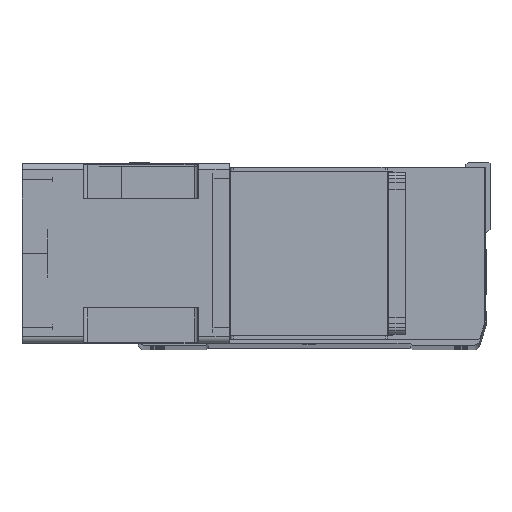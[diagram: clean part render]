
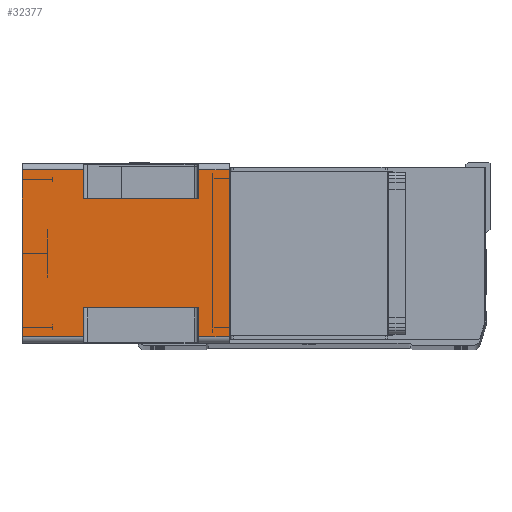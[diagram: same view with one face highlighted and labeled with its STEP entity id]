
A CAD part, top view. The second image highlights one B-rep face of the part: STEP entity #32377.
In plain terms, the highlighted planar face has unit normal (0, 0, 1) as drawn and (-1, 0, 0) by its records, which use the part's own axes.
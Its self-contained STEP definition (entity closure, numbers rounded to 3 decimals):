
#154 = LINE ( 'NONE', #10171, #5727 ) ;
#1216 = LINE ( 'NONE', #31349, #33396 ) ;
#1639 = VERTEX_POINT ( 'NONE', #45655 ) ;
#2431 = LINE ( 'NONE', #42534, #29648 ) ;
#2530 = LINE ( 'NONE', #38827, #29743 ) ;
#2797 = ORIENTED_EDGE ( 'NONE', *, *, #31670, .T. ) ;
#2899 = EDGE_CURVE ( 'NONE', #29115, #7165, #1216, .T. ) ;
#3002 = ORIENTED_EDGE ( 'NONE', *, *, #17579, .F. ) ;
#3374 = CARTESIAN_POINT ( 'NONE',  ( -71., 66., -164. ) ) ;
#4612 = CARTESIAN_POINT ( 'NONE',  ( -71., 43., -115.5 ) ) ;
#5727 = VECTOR ( 'NONE', #13436, 1000. ) ;
#6235 = DIRECTION ( 'NONE',  ( 0., 0., 1. ) ) ;
#6545 = DIRECTION ( 'NONE',  ( 0., -1., 0. ) ) ;
#6701 = PLANE ( 'NONE',  #32898 ) ;
#7165 = VERTEX_POINT ( 'NONE', #39122 ) ;
#7170 = LINE ( 'NONE', #21116, #36593 ) ;
#7423 = DIRECTION ( 'NONE',  ( 0., 0., 1. ) ) ;
#8457 = DIRECTION ( 'NONE',  ( 0., -1., 0. ) ) ;
#8562 = EDGE_CURVE ( 'NONE', #22545, #13946, #2530, .T. ) ;
#9270 = EDGE_CURVE ( 'NONE', #16220, #1639, #40156, .T. ) ;
#9933 = DIRECTION ( 'NONE',  ( 0., 0., 1. ) ) ;
#10171 = CARTESIAN_POINT ( 'NONE',  ( -71., -66., 0. ) ) ;
#10505 = LINE ( 'NONE', #24431, #42690 ) ;
#11422 = LINE ( 'NONE', #29742, #20863 ) ;
#12180 = CARTESIAN_POINT ( 'NONE',  ( -71., 66., 0. ) ) ;
#12316 = ORIENTED_EDGE ( 'NONE', *, *, #9270, .T. ) ;
#13436 = DIRECTION ( 'NONE',  ( 0., -1., 0. ) ) ;
#13449 = ORIENTED_EDGE ( 'NONE', *, *, #2899, .T. ) ;
#13777 = CARTESIAN_POINT ( 'NONE',  ( -71., -66., -24.5 ) ) ;
#13946 = VERTEX_POINT ( 'NONE', #16383 ) ;
#14445 = LINE ( 'NONE', #3374, #41670 ) ;
#14919 = DIRECTION ( 'NONE',  ( 0., 0., 1. ) ) ;
#15117 = VERTEX_POINT ( 'NONE', #39787 ) ;
#15183 = VECTOR ( 'NONE', #43034, 1000. ) ;
#15475 = ORIENTED_EDGE ( 'NONE', *, *, #31045, .T. ) ;
#16220 = VERTEX_POINT ( 'NONE', #34407 ) ;
#16365 = ORIENTED_EDGE ( 'NONE', *, *, #43452, .F. ) ;
#16383 = CARTESIAN_POINT ( 'NONE',  ( -71., 66., -115.5 ) ) ;
#16505 = VECTOR ( 'NONE', #34511, 1000. ) ;
#17579 = EDGE_CURVE ( 'NONE', #22592, #7165, #154, .T. ) ;
#17872 = DIRECTION ( 'NONE',  ( 0., 1., 0. ) ) ;
#18093 = DIRECTION ( 'NONE',  ( 0., 0., 1. ) ) ;
#18548 = VECTOR ( 'NONE', #18093, 1000. ) ;
#18579 = VERTEX_POINT ( 'NONE', #23498 ) ;
#19630 = CARTESIAN_POINT ( 'NONE',  ( -71., -66., -164. ) ) ;
#20201 = ORIENTED_EDGE ( 'NONE', *, *, #8562, .T. ) ;
#20359 = CARTESIAN_POINT ( 'NONE',  ( -71., -66., -164. ) ) ;
#20863 = VECTOR ( 'NONE', #8457, 1000. ) ;
#21116 = CARTESIAN_POINT ( 'NONE',  ( -71., 66., -164. ) ) ;
#21188 = EDGE_CURVE ( 'NONE', #27500, #22592, #14445, .T. ) ;
#21278 = ORIENTED_EDGE ( 'NONE', *, *, #21188, .F. ) ;
#22545 = VERTEX_POINT ( 'NONE', #4612 ) ;
#22592 = VERTEX_POINT ( 'NONE', #12180 ) ;
#22693 = EDGE_LOOP ( 'NONE', ( #2797, #43468, #16365, #24334, #13449, #3002, #21278, #15475, #32106, #20201, #43258, #12316 ) ) ;
#23296 = EDGE_CURVE ( 'NONE', #15117, #29115, #37626, .T. ) ;
#23498 = CARTESIAN_POINT ( 'NONE',  ( -71., 43., -24.5 ) ) ;
#24334 = ORIENTED_EDGE ( 'NONE', *, *, #23296, .T. ) ;
#24431 = CARTESIAN_POINT ( 'NONE',  ( -71., -43., -115.5 ) ) ;
#26879 = FACE_OUTER_BOUND ( 'NONE', #22693, .T. ) ;
#27500 = VERTEX_POINT ( 'NONE', #34818 ) ;
#28602 = EDGE_CURVE ( 'NONE', #22545, #18579, #2431, .T. ) ;
#29115 = VERTEX_POINT ( 'NONE', #13777 ) ;
#29648 = VECTOR ( 'NONE', #14919, 1000. ) ;
#29742 = CARTESIAN_POINT ( 'NONE',  ( -71., 43., -24.5 ) ) ;
#29743 = VECTOR ( 'NONE', #17872, 1000. ) ;
#31014 = CARTESIAN_POINT ( 'NONE',  ( -71., -43., -115.5 ) ) ;
#31045 = EDGE_CURVE ( 'NONE', #27500, #18579, #11422, .T. ) ;
#31128 = DIRECTION ( 'NONE',  ( 0., 1., 0. ) ) ;
#31349 = CARTESIAN_POINT ( 'NONE',  ( -71., -66., -164. ) ) ;
#31670 = EDGE_CURVE ( 'NONE', #1639, #39973, #37441, .T. ) ;
#32106 = ORIENTED_EDGE ( 'NONE', *, *, #28602, .F. ) ;
#32322 = CARTESIAN_POINT ( 'NONE',  ( -71., -43., -164. ) ) ;
#32377 = ADVANCED_FACE ( 'NONE', ( #26879 ), #6701, .T. ) ;
#32898 = AXIS2_PLACEMENT_3D ( 'NONE', #20359, #35086, #6545 ) ;
#32930 = VECTOR ( 'NONE', #34192, 1000. ) ;
#32939 = LINE ( 'NONE', #32322, #15183 ) ;
#33396 = VECTOR ( 'NONE', #6235, 1000. ) ;
#34192 = DIRECTION ( 'NONE',  ( 0., -1., 0. ) ) ;
#34268 = CARTESIAN_POINT ( 'NONE',  ( -71., -66., -164. ) ) ;
#34407 = CARTESIAN_POINT ( 'NONE',  ( -71., 66., -164. ) ) ;
#34511 = DIRECTION ( 'NONE',  ( 0., -1., 0. ) ) ;
#34818 = CARTESIAN_POINT ( 'NONE',  ( -71., 66., -24.5 ) ) ;
#35086 = DIRECTION ( 'NONE',  ( -1., 0., 0. ) ) ;
#36593 = VECTOR ( 'NONE', #9933, 1000. ) ;
#37441 = LINE ( 'NONE', #34268, #18548 ) ;
#37626 = LINE ( 'NONE', #45021, #16505 ) ;
#38827 = CARTESIAN_POINT ( 'NONE',  ( -71., -66., -115.5 ) ) ;
#39044 = EDGE_CURVE ( 'NONE', #16220, #13946, #7170, .T. ) ;
#39122 = CARTESIAN_POINT ( 'NONE',  ( -71., -66., 0. ) ) ;
#39787 = CARTESIAN_POINT ( 'NONE',  ( -71., -43., -24.5 ) ) ;
#39973 = VERTEX_POINT ( 'NONE', #41732 ) ;
#40156 = LINE ( 'NONE', #19630, #32930 ) ;
#41670 = VECTOR ( 'NONE', #7423, 1000. ) ;
#41732 = CARTESIAN_POINT ( 'NONE',  ( -71., -66., -115.5 ) ) ;
#42534 = CARTESIAN_POINT ( 'NONE',  ( -71., 43., -164. ) ) ;
#42690 = VECTOR ( 'NONE', #31128, 1000. ) ;
#43034 = DIRECTION ( 'NONE',  ( 0., 0., -1. ) ) ;
#43258 = ORIENTED_EDGE ( 'NONE', *, *, #39044, .F. ) ;
#43452 = EDGE_CURVE ( 'NONE', #15117, #45858, #32939, .T. ) ;
#43468 = ORIENTED_EDGE ( 'NONE', *, *, #44781, .T. ) ;
#44781 = EDGE_CURVE ( 'NONE', #39973, #45858, #10505, .T. ) ;
#45021 = CARTESIAN_POINT ( 'NONE',  ( -71., -66., -24.5 ) ) ;
#45655 = CARTESIAN_POINT ( 'NONE',  ( -71., -66., -164. ) ) ;
#45858 = VERTEX_POINT ( 'NONE', #31014 ) ;
